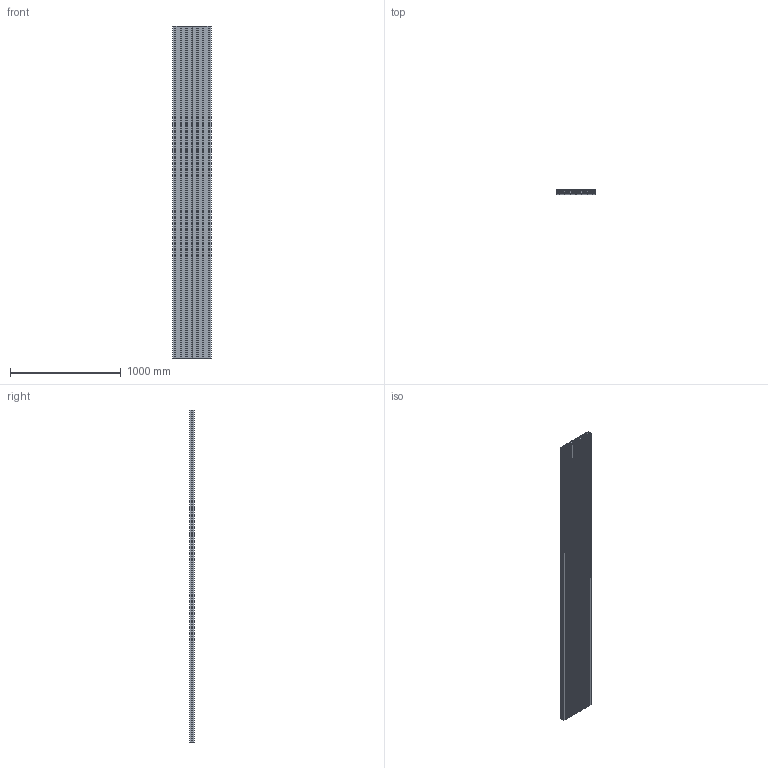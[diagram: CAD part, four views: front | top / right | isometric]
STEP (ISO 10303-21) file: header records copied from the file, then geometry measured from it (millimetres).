
FILE_DESCRIPTION (( 'STEP AP203' ), '1' );
FILE_NAME ('Rechteckprofil RE 40x350 - ArtNr 201031 3000.STEP', '2013-02-07T09:11:45', ( 'test' ), ( 'Microsoft' ), 'SwSTEP 2.0', 'SolidWorks 2012', '' );
FILE_SCHEMA (( 'CONFIG_CONTROL_DESIGN' ));
Length unit declared in the file: millimetre
Products named in the file (1): Rechteckprofil RE 40x350 - ArtNr 201031 3000
Bounding box: 350 x 40 x 3000 mm (x, y, z)
Volume: 15821325.7 mm3; surface area: 9137112 mm2
Topology: 1 solids, 1 shells, 650 faces, 1944 edges, 1296 vertices
Faces by surface type: plane 382, cylinder 268
Entity records: 22089 total; most frequent: CARTESIAN_POINT 3891, ORIENTED_EDGE 3888, DIRECTION 3782, EDGE_CURVE 1944, VECTOR 1408, LINE 1408, VERTEX_POINT 1296, AXIS2_PLACEMENT_3D 1187
